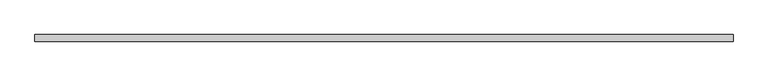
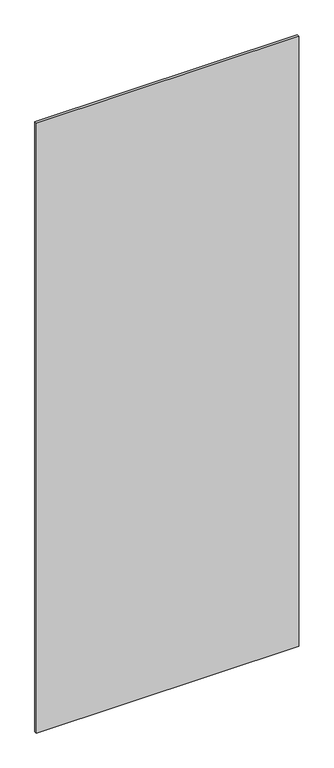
"""IFC4 building model written with IfcOpenShell, lengths in millimetres: plate geometry, VERTI AERO - prosklená výplň : Prosklená výplň."""

from ifc_helpers import new_model, si_unit, origin, origin_with_axes, place, context, project, spatial, polyline, outline, extrude, source, transform, mapped, element, save


def plate_bc4f32f3(model_context):
    return source(origin(), model_context, "Body", "SweptSolid", [
        extrude(outline(polyline([(600.0, 6.0), (600.0, -6.0), (-600.0, -6.0), (-600.0, 6.0), (600.0, 6.0)])), origin_with_axes(), (0.0, 0.0, 1.0), 2950.0),
    ])


if __name__ == "__main__":
    model = new_model("IFC4")
    model_context = context("Model", 3, world=origin())
    ifc_project = project(units=[si_unit("LENGTHUNIT", "METRE", prefix="MILLI")], contexts=[model_context])
    site = spatial("IfcSite", under=ifc_project)
    building = spatial("IfcBuilding", under=site)
    placement = place(None, origin())
    plate_shape = plate_bc4f32f3(model_context)
    element("IfcPlate", 1, ObjectType="VERTI AERO - prosklená výplň : Prosklená výplň", at=placement, inside=building, context=model_context, shape_type="MappedRepresentation", body=[
        mapped(plate_shape, transform((0.0, 0.0, 0.0), x_axis=(1.0, 0.0, 0.0), y_axis=(0.0, 1.0, 0.0), z_axis=(0.0, 0.0, 1.0))),
    ])
    save(model, "model.ifc")
